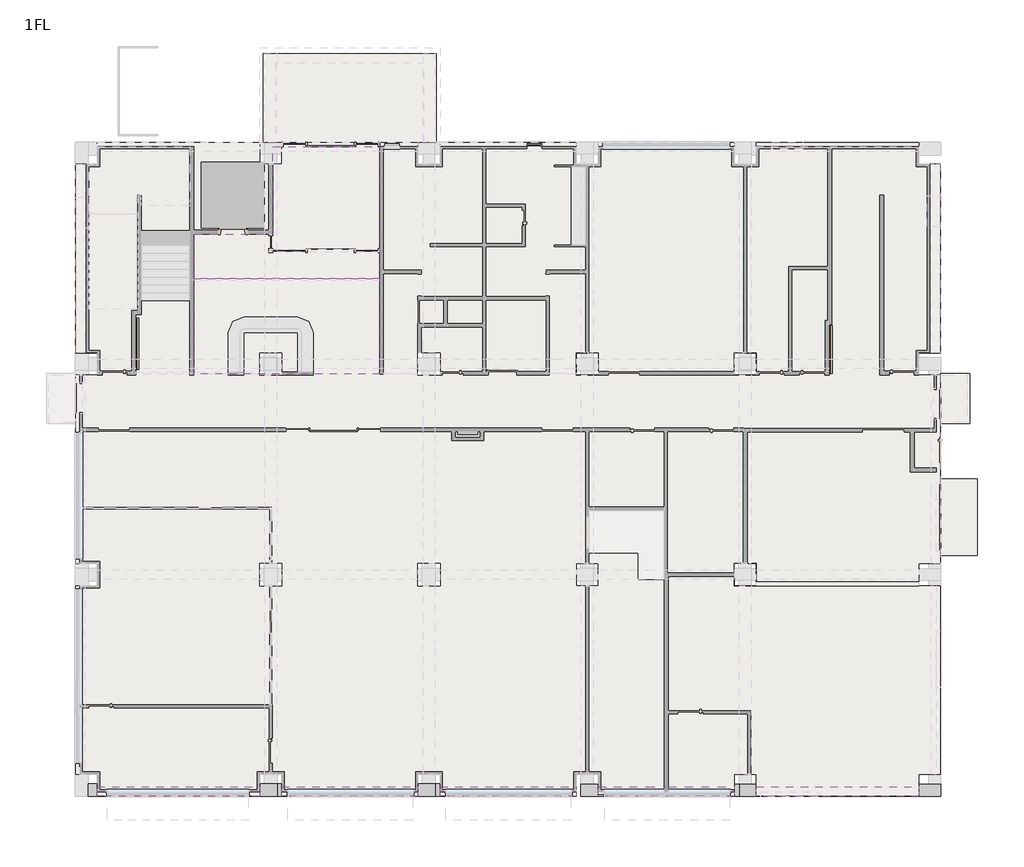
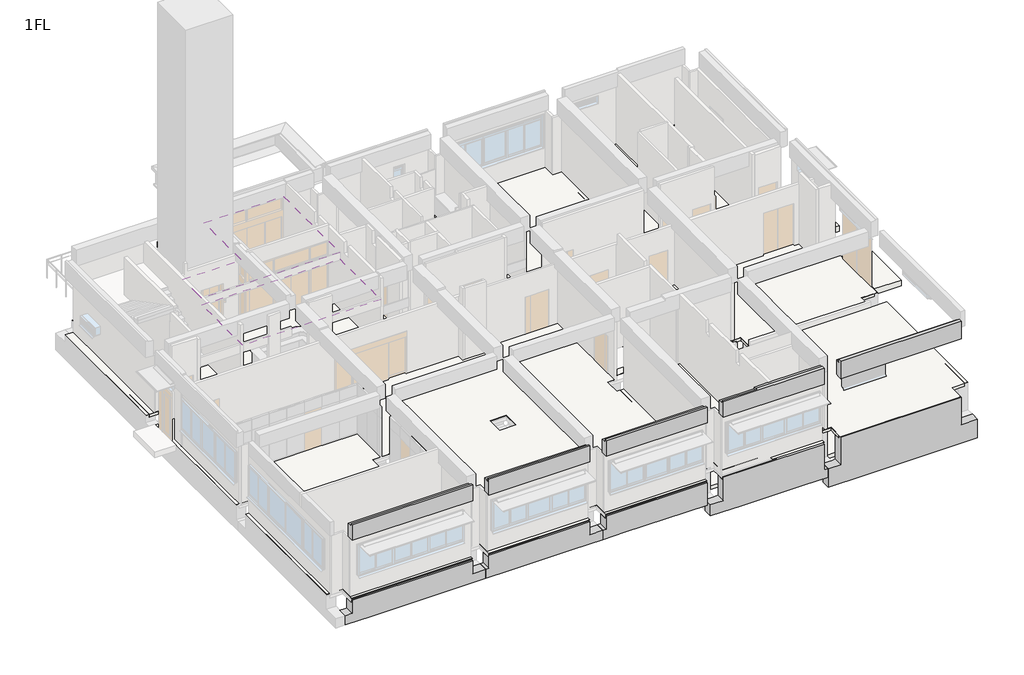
# One storey, part 4 of 7: 10 beams, 9 slabs, 2 coverings.
"""IFC4 building model written with IfcOpenShell, lengths in millimetres."""

import ifcopenshell
import ifcopenshell.guid

model = None  # the IFC model being written
_history = None  # IfcOwnerHistory: only IFC2X3 demands one
_inside = {}  # id of a spatial element -> (the spatial element, [elements in it])
_under = {}  # id of a project, library or spatial element -> (it, [spatial elements below it])
_declared = {}  # id of a project -> (the project, [libraries it declares])
_typed = {}  # id of a type object -> (the type object, [elements of that type])
_made_of = {}  # id of a material, layer set ... -> (it, [elements and type objects made of it])


def new_model(schema):
    """Start an empty IFC model of exactly this schema.

    Asked for "IFC4X3", IfcOpenShell would pick the latest addendum, in which some entities
    have other attributes; the version numbers below select the first issue.
    IFC2X3 requires an IfcOwnerHistory on every rooted entity: one is made here for all.
    """
    global model, _history
    if schema == "IFC4X3":
        model = ifcopenshell.file(schema_version=(4, 3, 0, 0))
    else:
        model = ifcopenshell.file(schema=schema)
    _inside.clear()
    _under.clear()
    _declared.clear()
    _typed.clear()
    _made_of.clear()
    _history = None
    if model.schema == "IFC2X3":
        org = make("IfcOrganization", Name="unknown")
        user = make(
            "IfcPersonAndOrganization",
            ThePerson=make("IfcPerson", FamilyName="unknown"),
            TheOrganization=org,
        )
        app = make(
            "IfcApplication",
            ApplicationDeveloper=org,
            Version="unknown",
            ApplicationFullName="unknown",
            ApplicationIdentifier="unknown",
        )
        _history = make(
            "IfcOwnerHistory",
            OwningUser=user,
            OwningApplication=app,
            ChangeAction="ADDED",
            CreationDate=0,
        )
    return model


def make(cls, **values):
    """One entity of the class cls with the attributes given. An attribute that is None is left unset."""
    return model.create_entity(
        cls, **{name: value for name, value in values.items() if value is not None}
    )


def rooted(cls, **values):
    """An entity with a GlobalId (a new one), such as an element, a storey or a relation."""
    return make(cls, GlobalId=ifcopenshell.guid.new(), OwnerHistory=_history, **values)


def si_unit(unit_type, name, prefix=None):
    """IfcSIUnit, for example si_unit("LENGTHUNIT", "METRE", prefix="MILLI")."""
    return make("IfcSIUnit", UnitType=unit_type, Prefix=prefix, Name=name)


def assignment(units):
    """IfcUnitAssignment: the units of a project."""
    return None if units is None else make("IfcUnitAssignment", Units=units)


def point(xyz):
    """IfcCartesianPoint."""
    return None if xyz is None else make("IfcCartesianPoint", Coordinates=xyz)


def direction(xyz):
    """IfcDirection."""
    return None if xyz is None else make("IfcDirection", DirectionRatios=xyz)


def frame(location, z_axis=None, x_axis=None):
    """IfcAxis2Placement3D, a coordinate frame: its origin and axes. An axis left out is left unset."""
    return make(
        "IfcAxis2Placement3D",
        Location=point(location),
        Axis=direction(z_axis),
        RefDirection=direction(x_axis),
    )


def origin():
    """The frame at (0, 0, 0) with its axes left unset."""
    return frame((0.0, 0.0, 0.0))


def place(relative_to, where):
    """IfcLocalPlacement: puts the frame where relative to a parent placement (None: the world)."""
    return make(
        "IfcLocalPlacement", PlacementRelTo=relative_to, RelativePlacement=where
    )


def context(
    kind, dimensions, precision=None, world=None, true_north=None, identifier=None
):
    """IfcGeometricRepresentationContext, for example the 3D "Model" context."""
    return make(
        "IfcGeometricRepresentationContext",
        ContextIdentifier=identifier,
        ContextType=kind,
        CoordinateSpaceDimension=dimensions,
        Precision=precision,
        WorldCoordinateSystem=world,
        TrueNorth=true_north,
    )


def project(units=None, contexts=None):
    """IfcProject with its units and contexts."""
    return rooted(
        "IfcProject",
        Name="project",
        RepresentationContexts=contexts,
        UnitsInContext=assignment(units),
    )


def spatial(cls, under=None, at=None, **own):
    """A site, building, storey or space (cls), placed at a placement, below another one or the project."""
    s = rooted(cls, ObjectPlacement=at, **own)
    if under is not None:
        _under.setdefault(under.id(), (under, []))[1].append(s)
    return s


def polyline(points):
    """IfcPolyline through the points."""
    return make("IfcPolyline", Points=[point(p) for p in points])


def outline(outer, holes=None, kind="AREA"):
    """IfcArbitraryClosedProfileDef: a profile drawn as a closed curve; with holes, ...WithVoids."""
    if holes is None:
        return make("IfcArbitraryClosedProfileDef", ProfileType=kind, OuterCurve=outer)
    return make(
        "IfcArbitraryProfileDefWithVoids",
        ProfileType=kind,
        OuterCurve=outer,
        InnerCurves=holes,
    )


def extrude(swept, where, along, depth):
    """IfcExtrudedAreaSolid: the profile swept, set in the frame where, extruded along a direction by depth."""
    return make(
        "IfcExtrudedAreaSolid",
        SweptArea=swept,
        Position=where,
        ExtrudedDirection=direction(along),
        Depth=depth,
    )


def faces_of(points, faces, orient=None, outer=None):
    """IfcFace entities. A face is a list of loops; a loop is a list of indices into points, from 0.

    orient and outer hold one flag for each loop. By default every Orientation is true, the
    first loop of a face is its IfcFaceOuterBound and the others are IfcFaceBound.
    """
    made = []
    for i, loops in enumerate(faces):
        bounds = []
        for j, loop in enumerate(loops):
            is_outer = j == 0 if outer is None else outer[i][j]
            bounds.append(
                make(
                    "IfcFaceOuterBound" if is_outer else "IfcFaceBound",
                    Bound=make("IfcPolyLoop", Polygon=[points[k] for k in loop]),
                    Orientation=True if orient is None else orient[i][j],
                )
            )
        made.append(make("IfcFace", Bounds=bounds))
    return made


def faceted_brep(points, faces, orient=None, outer=None, voids=None):
    """IfcFacetedBrep: a solid bounded by flat faces; with voids (closed shells), ...WithVoids."""
    shared = [point(p) for p in points]
    hull = make("IfcClosedShell", CfsFaces=faces_of(shared, faces, orient, outer))
    if voids is None:
        return make("IfcFacetedBrep", Outer=hull)
    return make(
        "IfcFacetedBrepWithVoids",
        Outer=hull,
        Voids=[
            make(cls, CfsFaces=faces_of(shared, fs, o, b)) for cls, fs, o, b in voids
        ],
    )


def shape(context_of_items, identifier, shape_type, items):
    """IfcShapeRepresentation: the items that make up one representation, for example the "Body"."""
    return make(
        "IfcShapeRepresentation",
        ContextOfItems=context_of_items,
        RepresentationIdentifier=identifier,
        RepresentationType=shape_type,
        Items=items,
    )


def made_of(thing, what):
    """Note that an element or type object is made of a material, layer set ...; save() writes the relation."""
    if what is not None:
        _made_of.setdefault(what.id(), (what, []))[1].append(thing)
    return thing


def element(
    cls,
    number,
    at=None,
    inside=None,
    cuts=None,
    type_object=None,
    material=None,
    context=None,
    identifier="Body",
    shape_type=None,
    held_by="IfcProductDefinitionShape",
    body=None,
    shapes=None,
    **own,
):
    """One element of the class cls, such as IfcWall. Its Tag is "e" and its number.

    at: its placement. inside: the storey or other place that contains it. cuts: it is an
    opening in that element (IfcRelVoidsElement). A single representation is given by context,
    identifier, shape_type and body (its items); several are given by shapes. held_by: the class
    of the entity that holds the representations. save() writes the other relations.
    """
    e = rooted(cls, Tag="e%d" % number, ObjectPlacement=at, **own)
    if body is not None:
        shapes = [shape(context, identifier, shape_type, body)]
    if shapes is not None:
        e.Representation = make(held_by, Representations=shapes)
    if inside is not None:
        _inside.setdefault(inside.id(), (inside, []))[1].append(e)
    if cuts is not None:
        rooted(
            "IfcRelVoidsElement", RelatingBuildingElement=cuts, RelatedOpeningElement=e
        )
    if type_object is not None:
        _typed.setdefault(type_object.id(), (type_object, []))[1].append(e)
    return made_of(e, material)


def aggregate(whole, parts):
    """IfcRelAggregates: a whole, such as a stair, and the parts it consists of."""
    return rooted("IfcRelAggregates", RelatingObject=whole, RelatedObjects=parts)


def save(model, path):
    """Write the relations noted so far, then the file.

    IfcRelAggregates (storeys below a building ...), IfcRelContainedInSpatialStructure (elements
    in a storey), IfcRelDefinesByType, IfcRelAssociatesMaterial and IfcRelDeclares: one each for
    every whole, place, type object, material and project.
    """
    for whole, parts in _under.values():
        aggregate(whole, parts)
    for where, things in _inside.values():
        rooted(
            "IfcRelContainedInSpatialStructure",
            RelatedElements=things,
            RelatingStructure=where,
        )
    for kind, things in _typed.values():
        rooted("IfcRelDefinesByType", RelatedObjects=things, RelatingType=kind)
    for what, things in _made_of.values():
        rooted("IfcRelAssociatesMaterial", RelatedObjects=things, RelatingMaterial=what)
    for by, libraries in _declared.values():
        rooted("IfcRelDeclares", RelatingContext=by, RelatedDefinitions=libraries)
    model.write(path)


model = new_model("IFC4")

# Units and contexts
model_context = context("Model", 3, world=origin())
ifc_project = project(units=[si_unit("LENGTHUNIT", "METRE", prefix="MILLI")], contexts=[model_context])

# Site, building, storey
site = spatial("IfcSite", under=ifc_project)
building = spatial("IfcBuilding", under=site)
storey = spatial("IfcBuildingStorey", under=building, Name="1FL", Elevation=0.0)

# Beams
placement = place(None, origin())
element("IfcBeam", 1, ObjectType="営_RC梁 : 2-RG1 350*850", at=placement, inside=storey, context=model_context, shape_type="Brep", body=[
    faceted_brep([(6580.0, -420.0, 4000.0), (6580.0, -420.0, 3150.0), (6580.0, -250.0, 3150.0), (6580.0, -50.0, 3150.0), (6580.0, -50.0, 3850.0), (6580.0, -325.0, 3850.0), (6580.0, -325.0, 4000.0), (420.0, -50.0, 3150.0), (420.0, -250.0, 3150.0), (420.0, -420.0, 3150.0), (420.0, -420.0, 4000.0), (420.0, -325.0, 4000.0), (420.0, -325.0, 3850.0), (420.0, -50.0, 3850.0)], [[[0, 1, 2, 3, 4, 5, 6]], [[7, 8, 9, 10, 11, 12, 13]], [[1, 0, 10, 9]], [[3, 2, 1, 9, 8, 7]], [[3, 7, 13, 4]], [[10, 0, 6, 11]], [[12, 5, 4, 13]], [[5, 12, 11, 6]]]),
])
element("IfcBeam", 2, ObjectType="営_RC梁 : 2-RG1 350*850", at=placement, inside=storey, context=model_context, shape_type="Brep", body=[
    faceted_brep([(12580.0, -420.0, 4000.0), (12580.0, -420.0, 3150.0), (12580.0, -250.0, 3150.0), (12580.0, -50.0, 3150.0), (12580.0, -50.0, 3850.0), (12580.0, -325.0, 3850.0), (12580.0, -325.0, 4000.0), (7420.0, -50.0, 3150.0), (7420.0, -250.0, 3150.0), (7420.0, -420.0, 3150.0), (7420.0, -420.0, 4000.0), (7420.0, -325.0, 4000.0), (7420.0, -325.0, 3850.0), (7420.0, -50.0, 3850.0)], [[[0, 1, 2, 3, 4, 5, 6]], [[7, 8, 9, 10, 11, 12, 13]], [[1, 0, 10, 9]], [[3, 2, 1, 9, 8, 7]], [[3, 7, 13, 4]], [[10, 0, 6, 11]], [[12, 5, 4, 13]], [[5, 12, 11, 6]]]),
])
element("IfcBeam", 3, ObjectType="営_RC梁 : 2-RG1 350*850", at=placement, inside=storey, context=model_context, shape_type="Brep", body=[
    faceted_brep([(18580.0, -420.0, 4000.0), (18580.0, -420.0, 3150.0), (18580.0, -250.0, 3150.0), (18580.0, -50.0, 3150.0), (18580.0, -50.0, 3850.0), (18580.0, -325.0, 3850.0), (18580.0, -325.0, 4000.0), (13420.0, -50.0, 3150.0), (13420.0, -250.0, 3150.0), (13420.0, -420.0, 3150.0), (13420.0, -420.0, 4000.0), (13420.0, -325.0, 4000.0), (13420.0, -325.0, 3850.0), (13420.0, -50.0, 3850.0)], [[[0, 1, 2, 3, 4, 5, 6]], [[7, 8, 9, 10, 11, 12, 13]], [[1, 0, 10, 9]], [[3, 2, 1, 9, 8, 7]], [[3, 7, 13, 4]], [[10, 0, 6, 11]], [[12, 5, 4, 13]], [[5, 12, 11, 6]]]),
])
element("IfcBeam", 4, ObjectType="営_RC梁 : 2-RG1 350*850", at=placement, inside=storey, context=model_context, shape_type="Brep", body=[
    faceted_brep([(24580.0, -420.0, 4000.0), (24580.0, -420.0, 3150.0), (24580.0, -250.0, 3150.0), (24580.0, -50.0, 3150.0), (24580.0, -50.0, 3940.0), (24580.0, -250.0, 3940.0), (24580.0, -250.0, 4000.0), (19420.0, -50.0, 3150.0), (19420.0, -250.0, 3150.0), (19420.0, -420.0, 3150.0), (19420.0, -420.0, 4000.0), (19420.0, -325.0, 4000.0), (19420.0, -325.0, 3850.0), (19420.0, -50.0, 3850.0), (21925.0, -50.0, 3150.0), (22075.0, -50.0, 3150.0), (21200.0, -50.0, 3850.0), (21200.0, -50.0, 3940.0), (21925.0, -50.0, 3940.0), (22075.0, -50.0, 3940.0), (21200.0, -250.0, 4000.0), (21200.0, -325.0, 4000.0), (21200.0, -325.0, 3850.0), (21200.0, -250.0, 3940.0)], [[[0, 1, 2, 3, 4, 5, 6]], [[7, 8, 9, 10, 11, 12, 13]], [[1, 0, 10, 9]], [[3, 2, 1, 9, 8, 7, 14, 15]], [[3, 15, 14, 7, 13, 16, 17, 18, 19, 4]], [[10, 0, 6, 20, 21, 11]], [[22, 16, 13, 12]], [[21, 22, 12, 11]], [[22, 21, 20, 23, 17, 16]], [[23, 5, 4, 19, 18, 17]], [[5, 23, 20, 6]]]),
])
element("IfcBeam", 5, ObjectType="営_RC梁 : 2-RG1 350*850", at=placement, inside=storey, context=model_context, shape_type="Brep", body=[
    faceted_brep([(31580.0, -420.0, 4090.0), (31580.0, -420.0, 4000.0), (31580.0, -420.0, 3150.0), (31580.0, -250.0, 3150.0), (31580.0, -50.0, 3150.0), (31580.0, -50.0, 3940.0), (31580.0, -250.0, 3940.0), (31580.0, -250.0, 4090.0), (25420.0, -50.0, 3150.0), (25420.0, -250.0, 3150.0), (25420.0, -420.0, 3150.0), (25420.0, -420.0, 4000.0), (25420.0, -420.0, 4090.0), (25420.0, -250.0, 4090.0), (25420.0, -250.0, 3940.0), (25420.0, -50.0, 3940.0)], [[[0, 1, 2, 3, 4, 5, 6, 7]], [[8, 9, 10, 11, 12, 13, 14, 15]], [[2, 1, 0, 12, 11, 10]], [[4, 3, 2, 10, 9, 8]], [[4, 8, 15, 5]], [[12, 0, 7, 13]], [[14, 6, 5, 15]], [[6, 14, 13, 7]]]),
])
element("IfcBeam", 6, ObjectType="営_RC梁 : FG1 450*1200", at=placement, inside=storey, context=model_context, shape_type="Brep", body=[
    faceted_brep([(7245.0, -420.0, -800.0), (6580.0, -420.0, -800.0), (6580.0, -420.0, -100.0), (420.0, -420.0, -100.0), (420.0, -420.0, -800.0), (70.0, -420.0, -800.0), (70.0, -420.0, -1300.0), (1350.0, -420.0, -1300.0), (5650.0, -420.0, -1300.0), (7245.0, -420.0, -1300.0), (7245.0, 70.0, -1300.0), (70.0, 70.0, -1300.0), (1350.0, 70.0, -1300.0), (5650.0, 70.0, -1300.0), (6755.0, 70.0, -1300.0), (6580.0, 70.0, -800.0), (6600.0, 70.0, -800.0), (6755.0, 70.0, -800.0), (7245.0, 70.0, -800.0), (70.0, 70.0, -800.0), (400.0, 70.0, -800.0), (420.0, 70.0, -800.0), (420.0, 70.0, -250.0), (6580.0, 70.0, -250.0), (6580.0, -335.0, -100.0), (420.0, -335.0, -100.0), (6580.0, -335.0, -250.0), (420.0, -335.0, -250.0)], [[[0, 1, 2, 3, 4, 5, 6, 7, 8, 9]], [[10, 9, 8, 7, 6, 11, 12, 13, 14]], [[15, 16, 17, 18, 10, 14, 13, 12, 11, 19, 20, 21, 22, 23]], [[3, 2, 24, 25]], [[15, 1, 0, 18, 17, 16]], [[1, 15, 23, 26, 24, 2]], [[4, 21, 20, 19, 5]], [[21, 4, 3, 25, 27, 22]], [[9, 10, 18, 0]], [[6, 5, 19, 11]], [[27, 26, 23, 22]], [[26, 27, 25, 24]]]),
])
element("IfcBeam", 7, ObjectType="営_RC梁 : FG1 450*1200", at=placement, inside=storey, context=model_context, shape_type="Brep", body=[
    faceted_brep([(7420.0, -420.0, -100.0), (7420.0, -420.0, -800.0), (7245.0, -420.0, -800.0), (7245.0, -420.0, -1300.0), (8350.0, -420.0, -1300.0), (11650.0, -420.0, -1300.0), (13245.0, -420.0, -1300.0), (13245.0, -420.0, -800.0), (12580.0, -420.0, -800.0), (12580.0, -420.0, -100.0), (13245.0, 70.0, -1300.0), (7245.0, 70.0, -1300.0), (8350.0, 70.0, -1300.0), (11650.0, 70.0, -1300.0), (12755.0, 70.0, -1300.0), (12580.0, 70.0, -800.0), (12600.0, 70.0, -800.0), (12755.0, 70.0, -800.0), (13245.0, 70.0, -800.0), (7245.0, 70.0, -800.0), (7400.0, 70.0, -800.0), (7420.0, 70.0, -800.0), (7420.0, 70.0, -250.0), (12580.0, 70.0, -250.0), (12580.0, -335.0, -100.0), (7420.0, -335.0, -100.0), (7420.0, -335.0, -250.0), (12580.0, -335.0, -250.0)], [[[0, 1, 2, 3, 4, 5, 6, 7, 8, 9]], [[10, 6, 5, 4, 3, 11, 12, 13, 14]], [[15, 16, 17, 18, 10, 14, 13, 12, 11, 19, 20, 21, 22, 23]], [[0, 9, 24, 25]], [[1, 21, 20, 19, 2]], [[21, 1, 0, 25, 26, 22]], [[15, 8, 7, 18, 17, 16]], [[8, 15, 23, 27, 24, 9]], [[6, 10, 18, 7]], [[3, 2, 19, 11]], [[26, 27, 23, 22]], [[27, 26, 25, 24]]]),
])
element("IfcBeam", 8, ObjectType="営_RC梁 : FG1 450*1200", at=placement, inside=storey, context=model_context, shape_type="Brep", body=[
    faceted_brep([(13420.0, -420.0, -100.0), (13420.0, -420.0, -800.0), (13245.0, -420.0, -800.0), (13245.0, -420.0, -1300.0), (14350.0, -420.0, -1300.0), (18580.0, -420.0, -1300.0), (18580.0, -420.0, -100.0), (18580.0, 70.0, -1300.0), (13245.0, 70.0, -1300.0), (14350.0, 70.0, -1300.0), (13245.0, 70.0, -800.0), (13400.0, 70.0, -800.0), (13420.0, 70.0, -800.0), (13420.0, 70.0, -250.0), (18580.0, 70.0, -250.0), (18580.0, -335.0, -100.0), (13420.0, -335.0, -100.0), (13420.0, -335.0, -250.0), (18580.0, -335.0, -250.0)], [[[0, 1, 2, 3, 4, 5, 6]], [[7, 5, 4, 3, 8, 9]], [[10, 11, 12, 13, 14, 7, 9, 8]], [[0, 6, 15, 16]], [[1, 12, 11, 10, 2]], [[12, 1, 0, 16, 17, 13]], [[6, 5, 7, 14, 18, 15]], [[3, 2, 10, 8]], [[17, 18, 14, 13]], [[18, 17, 16, 15]]]),
])
element("IfcBeam", 9, ObjectType="営_RC梁 : FG3 450*1850", at=placement, inside=storey, context=model_context, shape_type="Brep", body=[
    faceted_brep([(19420.0, -420.0, -1350.0), (18755.0, -420.0, -1350.0), (18755.0, -420.0, -1354.2105263), (18755.0, -420.0, -1950.0), (20350.0, -420.0, -1950.0), (23500.0, -420.0, -1950.0), (24775.0, -420.0, -1950.0), (24775.0, -420.0, -1500.0), (24580.0, -420.0, -1500.0), (24580.0, -420.0, -100.0), (19420.0, -420.0, -100.0), (18755.0, 50.0, -1950.0), (19225.0, 50.0, -1950.0), (20350.0, 50.0, -1950.0), (23500.0, 50.0, -1950.0), (24775.0, 50.0, -1950.0), (18755.0, 50.0, -1350.0), (19225.0, 50.0, -1350.0), (19400.0, 50.0, -1350.0), (19420.0, 50.0, -1350.0), (19420.0, 50.0, -250.0), (22175.0, 50.0, -250.0), (22175.0, 50.0, -160.0), (24580.0, 50.0, -160.0), (24580.0, 50.0, -1500.0), (24600.0, 50.0, -1500.0), (24775.0, 50.0, -1500.0), (24580.0, -250.0, -100.0), (22175.0, -250.0, -100.0), (22175.0, -335.0, -100.0), (19420.0, -335.0, -100.0), (18755.0, -400.0, -1350.0), (19420.0, -335.0, -250.0), (24580.0, -250.0, -160.0), (22175.0, -250.0, -160.0), (22175.0, -335.0, -250.0)], [[[0, 1, 2, 3, 4, 5, 6, 7, 8, 9, 10]], [[3, 11, 12, 13, 14, 15, 6, 5, 4]], [[16, 17, 18, 19, 20, 21, 22, 23, 24, 25, 26, 15, 14, 13, 12, 11]], [[10, 9, 27, 28, 29, 30]], [[11, 3, 2, 1, 31, 16]], [[0, 19, 18, 17, 16, 31, 1]], [[19, 0, 10, 30, 32, 20]], [[26, 7, 6, 15]], [[24, 8, 7, 26, 25]], [[8, 24, 23, 33, 27, 9]], [[33, 23, 22, 34]], [[27, 33, 34, 28]], [[32, 35, 21, 20]], [[35, 29, 28, 34, 22, 21]], [[29, 35, 32, 30]]]),
])
element("IfcBeam", 10, ObjectType="営_RC梁 : FG4 450*2400", at=placement, inside=storey, context=model_context, shape_type="Brep", body=[
    faceted_brep([(24775.0, -420.0, -2500.0), (26500.0, -420.0, -2500.0), (30500.0, -420.0, -2500.0), (32420.0, -420.0, -2500.0), (32420.0, -420.0, -1505.4545455), (32420.0, -420.0, -1500.0), (31580.0, -420.0, -1500.0), (31580.0, -420.0, -10.0), (25420.0, -420.0, -10.0), (25420.0, -420.0, -1500.0), (24775.0, -420.0, -1500.0), (24775.0, -420.0, -1950.0), (24775.0, 50.0, -2500.0), (25225.0, 50.0, -2500.0), (26500.0, 50.0, -2500.0), (30500.0, 50.0, -2500.0), (31950.0, 50.0, -2500.0), (32420.0, 50.0, -2500.0), (24775.0, 50.0, -1950.0), (24775.0, 50.0, -1500.0), (25225.0, 50.0, -1500.0), (25400.0, 50.0, -1500.0), (25420.0, 50.0, -1500.0), (25420.0, 50.0, -160.0), (31580.0, 50.0, -160.0), (31580.0, 50.0, -1500.0), (31600.0, 50.0, -1500.0), (31950.0, 50.0, -1500.0), (32420.0, 50.0, -1500.0), (31580.0, -250.0, -10.0), (25420.0, -250.0, -10.0), (25420.0, -250.0, -160.0), (31580.0, -250.0, -160.0)], [[[0, 1, 2, 3, 4, 5, 6, 7, 8, 9, 10, 11]], [[0, 12, 13, 14, 15, 16, 17, 3, 2, 1]], [[17, 16, 15, 14, 13, 12, 18, 19, 20, 21, 22, 23, 24, 25, 26, 27, 28]], [[8, 7, 29, 30]], [[22, 9, 8, 30, 31, 23]], [[6, 25, 24, 32, 29, 7]], [[12, 0, 11, 10, 19, 18]], [[3, 17, 28, 5, 4]], [[9, 22, 21, 20, 19, 10]], [[25, 6, 5, 28, 27, 26]], [[31, 32, 24, 23]], [[32, 31, 30, 29]]]),
])

# Coverings
element("IfcCovering", 11, ObjectType="S2_天井", at=placement, inside=storey, context=model_context, shape_type="SweptSolid", body=[
    extrude(outline(polyline([(11140.0, 15615.0), (4075.0, 15615.0), (4075.0, 19240.0), (11140.0, 19240.0), (11140.0, 15615.0)])), frame((0.0, 0.0, 2700.0), z_axis=(0.0, 0.0, 1.0), x_axis=(1.0, 0.0, 0.0)), (0.0, 0.0, 1.0), 100.0),
])
element("IfcCovering", 12, ObjectType="S2_天井", at=placement, inside=storey, context=model_context, shape_type="SweptSolid", body=[
    extrude(outline(polyline([(11140.0, 19240.0), (4075.0, 19240.0), (4075.0, 20925.0), (7075.0, 20925.0), (7075.0, 24250.0), (11140.0, 24250.0), (11140.0, 19240.0)])), frame((0.0, 0.0, 3050.0), z_axis=(0.0, 0.0, 1.0), x_axis=(1.0, 0.0, 0.0)), (0.0, 0.0, 1.0), 100.0),
])

# Slabs
element("IfcSlab", 13, ObjectType="(外床)エントランス 300", at=placement, inside=storey, context=model_context, shape_type="SweptSolid", body=[
    extrude(outline(polyline([(13270.0, 27775.0), (13270.0, 24420.0), (6715.3987464, 24420.0), (6715.3987464, 27775.0), (13270.0, 27775.0)])), frame((0.0, 0.0, -300.0), z_axis=(0.0, 0.0, 1.0), x_axis=(1.0, 0.0, 0.0)), (0.0, 0.0, 1.0), 300.0),
])
element("IfcSlab", 14, ObjectType="(内床)仕上げ", at=placement, inside=storey, context=model_context, shape_type="SweptSolid", body=[
    extrude(outline(polyline([(20925.0, 8800.0), (20925.0, 7800.0), (21925.0, 7800.0), (21925.0, -250.0), (19420.0, -250.0), (19420.0, 420.0), (19060.0, 420.0), (19060.0, 7580.0), (19420.0, 7580.0), (19420.0, 8420.0), (19060.0, 8420.0), (19060.0, 8800.0), (20925.0, 8800.0)])), frame((0.0, 0.0, 190.0), z_axis=(0.0, 0.0, 1.0), x_axis=(1.0, 0.0, 0.0)), (0.0, 0.0, 1.0), 10.0),
])
element("IfcSlab", 15, ObjectType="(内床)仕上げ", at=placement, inside=storey, context=model_context, shape_type="Brep", body=[
    faceted_brep([(21925.0, -400.0, -10.0), (21925.0, 10440.0, -10.0), (19060.0, 10440.0, -10.0), (19060.0, 8420.0, -10.0), (18580.0, 8420.0, -10.0), (18580.0, 7580.0, -10.0), (18755.0, 7580.0, -10.0), (19060.0, 7580.0, -10.0), (19060.0, 420.0, -10.0), (18755.0, 420.0, -10.0), (18580.0, 420.0, -10.0), (18580.0, -400.0, -10.0), (13420.0, -400.0, -10.0), (13420.0, 420.0, -10.0), (12580.0, 420.0, -10.0), (12580.0, -400.0, -10.0), (7420.0, -400.0, -10.0), (7420.0, 420.0, -10.0), (6580.0, 420.0, -10.0), (6580.0, -400.0, -10.0), (420.0, -400.0, -10.0), (420.0, 420.0, -10.0), (-400.0, 420.0, -10.0), (-400.0, 7580.0, -10.0), (420.0, 7580.0, -10.0), (420.0, 8420.0, -10.0), (-400.0, 8420.0, -10.0), (-400.0, 15580.0, -10.0), (420.0, 15580.0, -10.0), (420.0, 16420.0, -10.0), (-400.0, 16420.0, -10.0), (-400.0, 23580.0, -10.0), (420.0, 23580.0, -10.0), (420.0, 24400.0, -10.0), (6580.0, 24400.0, -10.0), (6580.0, 23580.0, -10.0), (7420.0, 23580.0, -10.0), (7420.0, 24400.0, -10.0), (12580.0, 24400.0, -10.0), (12580.0, 23580.0, -10.0), (13420.0, 23580.0, -10.0), (13420.0, 24400.0, -10.0), (18580.0, 24400.0, -10.0), (18580.0, 23580.0, -10.0), (19420.0, 23580.0, -10.0), (19420.0, 24400.0, -10.0), (24580.0, 24400.0, -10.0), (24580.0, 23580.0, -10.0), (25420.0, 23580.0, -10.0), (25420.0, 24400.0, -10.0), (31580.0, 24400.0, -10.0), (31580.0, 23580.0, -10.0), (32400.0, 23580.0, -10.0), (32400.0, 16420.0, -10.0), (31580.0, 16420.0, -10.0), (31580.0, 15580.0, -10.0), (32400.0, 15580.0, -10.0), (32400.0, 8420.0, -10.0), (31580.0, 8420.0, -10.0), (31580.0, 7580.0, -10.0), (32400.0, 7580.0, -10.0), (32400.0, 420.0, -10.0), (31580.0, 420.0, -10.0), (31580.0, -400.0, -10.0), (25420.0, -400.0, -10.0), (25420.0, 420.0, -10.0), (24580.0, 420.0, -10.0), (24580.0, -400.0, -10.0), (7420.0, 7580.0, -10.0), (7420.0, 8420.0, -10.0), (6580.0, 8420.0, -10.0), (6580.0, 7580.0, -10.0), (13420.0, 7580.0, -10.0), (13420.0, 8420.0, -10.0), (12580.0, 8420.0, -10.0), (12580.0, 7580.0, -10.0), (25420.0, 7580.0, -10.0), (25420.0, 8420.0, -10.0), (24580.0, 8420.0, -10.0), (24580.0, 7580.0, -10.0), (7420.0, 15580.0, -10.0), (7420.0, 16420.0, -10.0), (6580.0, 16420.0, -10.0), (6580.0, 15580.0, -10.0), (13420.0, 15580.0, -10.0), (13420.0, 16420.0, -10.0), (12580.0, 16420.0, -10.0), (12580.0, 15580.0, -10.0), (19420.0, 15580.0, -10.0), (19420.0, 16420.0, -10.0), (18580.0, 16420.0, -10.0), (18580.0, 15580.0, -10.0), (25420.0, 15580.0, -10.0), (25420.0, 16420.0, -10.0), (24580.0, 16420.0, -10.0), (24580.0, 15580.0, -10.0), (21925.0, 10440.0, 0.0), (21925.0, -400.0, 0.0), (24580.0, -400.0, 0.0), (24580.0, 420.0, 0.0), (25420.0, 420.0, 0.0), (25420.0, -400.0, 0.0), (31580.0, -400.0, 0.0), (31580.0, 420.0, 0.0), (32400.0, 420.0, 0.0), (32400.0, 7580.0, 0.0), (31580.0, 7580.0, 0.0), (31580.0, 8420.0, 0.0), (32400.0, 8420.0, 0.0), (32400.0, 15580.0, 0.0), (31580.0, 15580.0, 0.0), (31580.0, 16420.0, 0.0), (32400.0, 16420.0, 0.0), (32400.0, 23580.0, 0.0), (31580.0, 23580.0, 0.0), (31580.0, 24400.0, 0.0), (25420.0, 24400.0, 0.0), (25420.0, 23580.0, 0.0), (24580.0, 23580.0, 0.0), (24580.0, 24400.0, 0.0), (19420.0, 24400.0, 0.0), (19420.0, 23580.0, 0.0), (18580.0, 23580.0, 0.0), (18580.0, 24400.0, 0.0), (13420.0, 24400.0, 0.0), (13420.0, 23580.0, 0.0), (12580.0, 23580.0, 0.0), (12580.0, 24400.0, 0.0), (7420.0, 24400.0, 0.0), (7420.0, 23580.0, 0.0), (6580.0, 23580.0, 0.0), (6580.0, 24400.0, 0.0), (420.0, 24400.0, 0.0), (420.0, 23580.0, 0.0), (-400.0, 23580.0, 0.0), (-400.0, 16420.0, 0.0), (420.0, 16420.0, 0.0), (420.0, 15580.0, 0.0), (-400.0, 15580.0, 0.0), (-400.0, 8420.0, 0.0), (420.0, 8420.0, 0.0), (420.0, 7580.0, 0.0), (-400.0, 7580.0, 0.0), (-400.0, 420.0, 0.0), (420.0, 420.0, 0.0), (420.0, -400.0, 0.0), (6580.0, -400.0, 0.0), (6580.0, 420.0, 0.0), (7420.0, 420.0, 0.0), (7420.0, -400.0, 0.0), (12580.0, -400.0, 0.0), (12580.0, 420.0, 0.0), (13420.0, 420.0, 0.0), (13420.0, -400.0, 0.0), (18580.0, -400.0, 0.0), (18580.0, 420.0, 0.0), (19060.0, 420.0, 0.0), (19060.0, 7580.0, 0.0), (18580.0, 7580.0, 0.0), (18580.0, 8420.0, 0.0), (19060.0, 8420.0, 0.0), (19060.0, 10440.0, 0.0), (7420.0, 8420.0, 0.0), (7420.0, 7580.0, 0.0), (6580.0, 7580.0, 0.0), (6580.0, 8420.0, 0.0), (13420.0, 8420.0, 0.0), (13420.0, 7580.0, 0.0), (12580.0, 7580.0, 0.0), (12580.0, 8420.0, 0.0), (25420.0, 8420.0, 0.0), (25420.0, 7580.0, 0.0), (24580.0, 7580.0, 0.0), (24580.0, 8420.0, 0.0), (7420.0, 16420.0, 0.0), (7420.0, 15580.0, 0.0), (6580.0, 15580.0, 0.0), (6580.0, 16420.0, 0.0), (13420.0, 16420.0, 0.0), (13420.0, 15580.0, 0.0), (12580.0, 15580.0, 0.0), (12580.0, 16420.0, 0.0), (19420.0, 16420.0, 0.0), (19420.0, 15580.0, 0.0), (18580.0, 15580.0, 0.0), (18580.0, 16420.0, 0.0), (25420.0, 16420.0, 0.0), (25420.0, 15580.0, 0.0), (24580.0, 15580.0, 0.0), (24580.0, 16420.0, 0.0)], [[[0, 1, 2, 3, 4, 5, 6, 7, 8, 9, 10, 11, 12, 13, 14, 15, 16, 17, 18, 19, 20, 21, 22, 23, 24, 25, 26, 27, 28, 29, 30, 31, 32, 33, 34, 35, 36, 37, 38, 39, 40, 41, 42, 43, 44, 45, 46, 47, 48, 49, 50, 51, 52, 53, 54, 55, 56, 57, 58, 59, 60, 61, 62, 63, 64, 65, 66, 67], [68, 69, 70, 71], [72, 73, 74, 75], [76, 77, 78, 79], [80, 81, 82, 83], [84, 85, 86, 87], [88, 89, 90, 91], [92, 93, 94, 95]], [[96, 97, 98, 99, 100, 101, 102, 103, 104, 105, 106, 107, 108, 109, 110, 111, 112, 113, 114, 115, 116, 117, 118, 119, 120, 121, 122, 123, 124, 125, 126, 127, 128, 129, 130, 131, 132, 133, 134, 135, 136, 137, 138, 139, 140, 141, 142, 143, 144, 145, 146, 147, 148, 149, 150, 151, 152, 153, 154, 155, 156, 157, 158, 159, 160, 161], [162, 163, 164, 165], [166, 167, 168, 169], [170, 171, 172, 173], [174, 175, 176, 177], [178, 179, 180, 181], [182, 183, 184, 185], [186, 187, 188, 189]], [[104, 61, 60, 105]], [[108, 57, 56, 109]], [[112, 53, 52, 113]], [[97, 0, 67, 98]], [[101, 64, 63, 102]], [[22, 143, 142, 23]], [[26, 139, 138, 27]], [[30, 135, 134, 31]], [[37, 128, 127, 38]], [[131, 34, 33, 132]], [[41, 124, 123, 42]], [[45, 120, 119, 46]], [[49, 116, 115, 50]], [[1, 0, 97, 96]], [[2, 1, 96, 161]], [[2, 161, 160, 3]], [[156, 8, 7, 157]], [[149, 16, 15, 150]], [[19, 146, 145, 20]], [[153, 12, 11, 154]], [[148, 17, 16, 149]], [[18, 147, 146, 19]], [[147, 18, 17, 148]], [[152, 13, 12, 153]], [[14, 151, 150, 15]], [[151, 14, 13, 152]], [[10, 155, 154, 11]], [[155, 10, 9, 8, 156]], [[100, 65, 64, 101]], [[66, 99, 98, 67]], [[99, 66, 65, 100]], [[62, 103, 102, 63]], [[103, 62, 61, 104]], [[144, 21, 20, 145]], [[21, 144, 143, 22]], [[68, 163, 162, 69]], [[163, 68, 71, 164]], [[164, 71, 70, 165]], [[165, 70, 69, 162]], [[72, 167, 166, 73]], [[167, 72, 75, 168]], [[168, 75, 74, 169]], [[169, 74, 73, 166]], [[5, 158, 157, 7, 6]], [[158, 5, 4, 159]], [[159, 4, 3, 160]], [[76, 171, 170, 77]], [[171, 76, 79, 172]], [[172, 79, 78, 173]], [[173, 78, 77, 170]], [[59, 106, 105, 60]], [[106, 59, 58, 107]], [[107, 58, 57, 108]], [[24, 141, 140, 25]], [[141, 24, 23, 142]], [[25, 140, 139, 26]], [[80, 175, 174, 81]], [[175, 80, 83, 176]], [[176, 83, 82, 177]], [[177, 82, 81, 174]], [[84, 179, 178, 85]], [[179, 84, 87, 180]], [[180, 87, 86, 181]], [[181, 86, 85, 178]], [[88, 183, 182, 89]], [[183, 88, 91, 184]], [[184, 91, 90, 185]], [[185, 90, 89, 182]], [[92, 187, 186, 93]], [[187, 92, 95, 188]], [[188, 95, 94, 189]], [[189, 94, 93, 186]], [[55, 110, 109, 56]], [[110, 55, 54, 111]], [[111, 54, 53, 112]], [[28, 137, 136, 29]], [[137, 28, 27, 138]], [[29, 136, 135, 30]], [[36, 129, 128, 37]], [[129, 36, 35, 130]], [[130, 35, 34, 131]], [[40, 125, 124, 41]], [[125, 40, 39, 126]], [[126, 39, 38, 127]], [[44, 121, 120, 45]], [[121, 44, 43, 122]], [[122, 43, 42, 123]], [[48, 117, 116, 49]], [[117, 48, 47, 118]], [[118, 47, 46, 119]], [[51, 114, 113, 52]], [[114, 51, 50, 115]], [[32, 133, 132, 33]], [[133, 32, 31, 134]]]),
])
element("IfcSlab", 16, ObjectType="(外床)エントランス 300", at=placement, inside=storey, context=model_context, shape_type="SweptSolid", body=[
    extrude(outline(polyline([(32420.0, 15630.0), (33505.0, 15630.0), (33505.0, 13730.0), (32420.0, 13730.0), (32420.0, 15630.0)])), frame((0.0, 0.0, -300.0), z_axis=(0.0, 0.0, 1.0), x_axis=(1.0, 0.0, 0.0)), (0.0, 0.0, 1.0), 300.0),
])
element("IfcSlab", 17, ObjectType="(外床)エントランス 300", at=placement, inside=storey, context=model_context, shape_type="SweptSolid", body=[
    extrude(outline(polyline([(32420.0, 11630.0), (33805.0, 11630.0), (33805.0, 8730.0), (32420.0, 8730.0), (32420.0, 11630.0)])), frame((0.0, 0.0, -300.0), z_axis=(0.0, 0.0, 1.0), x_axis=(1.0, 0.0, 0.0)), (0.0, 0.0, 1.0), 300.0),
])
element("IfcSlab", 18, ObjectType="(RC)150", at=placement, inside=storey, context=model_context, shape_type="Brep", body=[
    faceted_brep([(4075.0, 24250.0, -160.0), (4075.0, 23930.0, -160.0), (4075.0, 21075.0, -160.0), (4124.0, 21075.0, -160.0), (4514.0, 21075.0, -160.0), (6755.0, 21075.0, -160.0), (6925.0, 21075.0, -160.0), (6925.0, 23580.0, -160.0), (7225.0, 23580.0, -160.0), (7420.0, 23580.0, -160.0), (7420.0, 23950.0, -160.0), (7420.0, 24250.0, -160.0), (12580.0, 24250.0, -160.0), (12580.0, 23950.0, -160.0), (12580.0, 23580.0, -160.0), (12775.0, 23580.0, -160.0), (13225.0, 23580.0, -160.0), (13420.0, 23580.0, -160.0), (13420.0, 23950.0, -160.0), (13420.0, 24250.0, -160.0), (18580.0, 24250.0, -160.0), (18580.0, 23950.0, -160.0), (18580.0, 23580.0, -160.0), (18775.0, 23580.0, -160.0), (19000.0, 23580.0, -160.0), (19000.0, 16420.0, -160.0), (18775.0, 16420.0, -160.0), (18580.0, 16420.0, -160.0), (18580.0, 16225.0, -160.0), (18580.0, 15755.0, -160.0), (18580.0, 15580.0, -160.0), (18755.0, 15580.0, -160.0), (19245.0, 15580.0, -160.0), (19420.0, 15580.0, -160.0), (19420.0, 15640.0, -160.0), (24580.0, 15640.0, -160.0), (24580.0, 15580.0, -160.0), (24755.0, 15580.0, -160.0), (25225.0, 15580.0, -160.0), (25420.0, 15580.0, -160.0), (25420.0, 15775.0, -160.0), (25420.0, 16245.0, -160.0), (25420.0, 16420.0, -160.0), (25225.0, 16420.0, -160.0), (25000.0, 16420.0, -160.0), (25000.0, 23580.0, -160.0), (25225.0, 23580.0, -160.0), (25420.0, 23580.0, -160.0), (25420.0, 23930.0, -160.0), (25420.0, 24250.0, -160.0), (31580.0, 24250.0, -160.0), (31580.0, 23930.0, -160.0), (31580.0, 23580.0, -160.0), (31930.0, 23580.0, -160.0), (32250.0, 23580.0, -160.0), (32250.0, 16420.0, -160.0), (31930.0, 16420.0, -160.0), (31580.0, 16420.0, -160.0), (31580.0, 16245.0, -160.0), (31580.0, 15775.0, -160.0), (31580.0, 15580.0, -160.0), (31950.0, 15580.0, -160.0), (32250.0, 15580.0, -160.0), (32250.0, 13555.0, -160.0), (32250.0, 8420.0, -160.0), (31950.0, 8420.0, -160.0), (31580.0, 8420.0, -160.0), (31580.0, 8225.0, -160.0), (31580.0, 7775.0, -160.0), (31580.0, 7580.0, -160.0), (31950.0, 7580.0, -160.0), (32250.0, 7580.0, -160.0), (32250.0, 420.0, -160.0), (31950.0, 420.0, -160.0), (31580.0, 420.0, -160.0), (31580.0, 50.0, -160.0), (31580.0, -250.0, -160.0), (25420.0, -250.0, -160.0), (25420.0, 50.0, -160.0), (25420.0, 420.0, -160.0), (25225.0, 420.0, -160.0), (24775.0, 420.0, -160.0), (24580.0, 420.0, -160.0), (24580.0, 50.0, -160.0), (24580.0, -250.0, -160.0), (22175.0, -250.0, -160.0), (22175.0, 50.0, -160.0), (22175.0, 2485.0, -160.0), (22175.0, 2835.0, -160.0), (22175.0, 5158.0, -160.0), (22175.0, 5508.0, -160.0), (22175.0, 7775.0, -160.0), (22175.0, 7825.0, -160.0), (24580.0, 7825.0, -160.0), (24580.0, 7775.0, -160.0), (24580.0, 7580.0, -160.0), (24775.0, 7580.0, -160.0), (25225.0, 7580.0, -160.0), (25420.0, 7580.0, -160.0), (25420.0, 7775.0, -160.0), (25420.0, 8225.0, -160.0), (25420.0, 8420.0, -160.0), (25225.0, 8420.0, -160.0), (25175.0, 8420.0, -160.0), (25175.0, 13500.0, -160.0), (24755.0, 13500.0, -160.0), (19245.0, 13500.0, -160.0), (19000.0, 13500.0, -160.0), (18755.0, 13500.0, -160.0), (13245.0, 13500.0, -160.0), (12755.0, 13500.0, -160.0), (7245.0, 13500.0, -160.0), (6755.0, 13500.0, -160.0), (70.0, 13500.0, -160.0), (-250.0, 13500.0, -160.0), (-250.0, 15580.0, -160.0), (70.0, 15580.0, -160.0), (420.0, 15580.0, -160.0), (420.0, 15755.0, -160.0), (420.0, 16245.0, -160.0), (420.0, 16420.0, -160.0), (70.0, 16420.0, -160.0), (-250.0, 16420.0, -160.0), (-250.0, 23580.0, -160.0), (70.0, 23580.0, -160.0), (420.0, 23580.0, -160.0), (420.0, 23930.0, -160.0), (420.0, 24250.0, -160.0), (7420.0, 15580.0, -160.0), (7420.0, 15755.0, -160.0), (7420.0, 16225.0, -160.0), (7420.0, 16420.0, -160.0), (7225.0, 16420.0, -160.0), (6755.0, 16420.0, -160.0), (6580.0, 16420.0, -160.0), (6580.0, 16245.0, -160.0), (6580.0, 15755.0, -160.0), (6580.0, 15580.0, -160.0), (6755.0, 15580.0, -160.0), (7245.0, 15580.0, -160.0), (13420.0, 15580.0, -160.0), (13420.0, 15755.0, -160.0), (13420.0, 16225.0, -160.0), (13420.0, 16420.0, -160.0), (13225.0, 16420.0, -160.0), (12775.0, 16420.0, -160.0), (12580.0, 16420.0, -160.0), (12580.0, 16225.0, -160.0), (12580.0, 15755.0, -160.0), (12580.0, 15580.0, -160.0), (12755.0, 15580.0, -160.0), (13245.0, 15580.0, -160.0), (4075.0, 21075.0, -10.0), (4075.0, 23930.0, -10.0), (4075.0, 24250.0, -10.0), (420.0, 24250.0, -10.0), (420.0, 23580.0, -10.0), (-250.0, 23580.0, -10.0), (-250.0, 16420.0, -10.0), (420.0, 16420.0, -10.0), (420.0, 15580.0, -10.0), (-250.0, 15580.0, -10.0), (-250.0, 13500.0, -10.0), (24987.3, 13500.0, -10.0), (25000.0, 13500.0, -10.0), (25000.0, 13325.0, -10.0), (25000.0, 10925.0, -10.0), (25000.0, 10575.0, -10.0), (25000.0, 8420.0, -10.0), (25420.0, 8420.0, -10.0), (25420.0, 7730.0, -10.0), (25420.0, 7580.0, -10.0), (24580.0, 7580.0, -10.0), (24580.0, 8000.0, -10.0), (21925.0, 8000.0, -10.0), (21925.0, -250.0, -10.0), (24580.0, -250.0, -10.0), (24580.0, 420.0, -10.0), (25420.0, 420.0, -10.0), (25420.0, -250.0, -10.0), (31580.0, -250.0, -10.0), (31580.0, 420.0, -10.0), (32250.0, 420.0, -10.0), (32250.0, 7580.0, -10.0), (31580.0, 7580.0, -10.0), (31580.0, 7730.0, -10.0), (31580.0, 8420.0, -10.0), (32250.0, 8420.0, -10.0), (32250.0, 13555.0, -10.0), (32250.0, 15580.0, -10.0), (31580.0, 15580.0, -10.0), (31580.0, 16420.0, -10.0), (32250.0, 16420.0, -10.0), (32250.0, 23580.0, -10.0), (31580.0, 23580.0, -10.0), (31580.0, 24250.0, -10.0), (25420.0, 24250.0, -10.0), (25420.0, 23580.0, -10.0), (25000.0, 23580.0, -10.0), (25000.0, 16420.0, -10.0), (25420.0, 16420.0, -10.0), (25420.0, 15580.0, -10.0), (24580.0, 15580.0, -10.0), (24580.0, 15640.0, -10.0), (19420.0, 15640.0, -10.0), (19420.0, 15580.0, -10.0), (18580.0, 15580.0, -10.0), (18580.0, 16420.0, -10.0), (19000.0, 16420.0, -10.0), (19000.0, 23580.0, -10.0), (18580.0, 23580.0, -10.0), (18580.0, 24250.0, -10.0), (13420.0, 24250.0, -10.0), (13420.0, 23580.0, -10.0), (12580.0, 23580.0, -10.0), (12580.0, 24250.0, -10.0), (7420.0, 24250.0, -10.0), (7420.0, 23580.0, -10.0), (6925.0, 23580.0, -10.0), (6925.0, 21075.0, -10.0), (6755.0, 21075.0, -10.0), (4514.0, 21075.0, -10.0), (4124.0, 21075.0, -10.0), (7420.0, 16420.0, -10.0), (7420.0, 15580.0, -10.0), (6580.0, 15580.0, -10.0), (6580.0, 16420.0, -10.0), (13420.0, 16420.0, -10.0), (13420.0, 15580.0, -10.0), (12580.0, 15580.0, -10.0), (12580.0, 16420.0, -10.0), (19000.0, 16420.0, -100.0), (19000.0, 23580.0, -100.0), (19420.0, 15640.0, -100.0), (24580.0, 15640.0, -100.0), (25000.0, 16420.0, -100.0), (25000.0, 23580.0, -100.0), (21925.0, -250.0, -100.0), (22175.0, -250.0, -100.0), (24580.0, -250.0, -100.0), (21925.0, 8000.0, -100.0), (24580.0, 8000.0, -100.0), (25000.0, 13500.0, -100.0), (25000.0, 13325.0, -100.0), (25000.0, 10925.0, -100.0), (25000.0, 10575.0, -100.0), (25000.0, 8420.0, -100.0), (-250.0, 13500.0, -100.0), (25175.0, 13500.0, -100.0), (-250.0, 15580.0, -100.0), (22175.0, 7825.0, -100.0), (24580.0, 7825.0, -100.0), (25175.0, 8420.0, -100.0)], [[[0, 1, 2, 3, 4, 5, 6, 7, 8, 9, 10, 11, 12, 13, 14, 15, 16, 17, 18, 19, 20, 21, 22, 23, 24, 25, 26, 27, 28, 29, 30, 31, 32, 33, 34, 35, 36, 37, 38, 39, 40, 41, 42, 43, 44, 45, 46, 47, 48, 49, 50, 51, 52, 53, 54, 55, 56, 57, 58, 59, 60, 61, 62, 63, 64, 65, 66, 67, 68, 69, 70, 71, 72, 73, 74, 75, 76, 77, 78, 79, 80, 81, 82, 83, 84, 85, 86, 87, 88, 89, 90, 91, 92, 93, 94, 95, 96, 97, 98, 99, 100, 101, 102, 103, 104, 105, 106, 107, 108, 109, 110, 111, 112, 113, 114, 115, 116, 117, 118, 119, 120, 121, 122, 123, 124, 125, 126, 127], [128, 129, 130, 131, 132, 133, 134, 135, 136, 137, 138, 139], [140, 141, 142, 143, 144, 145, 146, 147, 148, 149, 150, 151]], [[152, 153, 154, 155, 156, 157, 158, 159, 160, 161, 162, 163, 164, 165, 166, 167, 168, 169, 170, 171, 172, 173, 174, 175, 176, 177, 178, 179, 180, 181, 182, 183, 184, 185, 186, 187, 188, 189, 190, 191, 192, 193, 194, 195, 196, 197, 198, 199, 200, 201, 202, 203, 204, 205, 206, 207, 208, 209, 210, 211, 212, 213, 214, 215, 216, 217, 218, 219, 220, 221, 222], [223, 224, 225, 226], [227, 228, 229, 230]], [[2, 1, 0, 154, 153, 152]], [[6, 5, 4, 3, 2, 152, 222, 221, 220, 219]], [[6, 219, 218, 7]], [[11, 216, 215, 12]], [[19, 212, 211, 20]], [[208, 231, 25, 24, 232, 209]], [[34, 233, 204, 203, 234, 35]], [[44, 235, 199, 198, 236, 45]], [[49, 196, 195, 50]], [[188, 63, 62, 189]], [[192, 55, 54, 193]], [[63, 188, 187, 64]], [[182, 72, 71, 183]], [[175, 237, 238, 85, 84, 239, 176]], [[179, 77, 76, 180]], [[175, 174, 240, 237]], [[240, 174, 173, 241]], [[164, 242, 243, 244, 245, 246, 168, 167, 166, 165]], [[164, 163, 162, 247, 114, 113, 112, 111, 110, 109, 108, 107, 106, 105, 104, 248, 242]], [[114, 247, 162, 161, 249, 115]], [[122, 158, 157, 123]], [[154, 0, 127, 155]], [[250, 238, 237, 240, 241, 251]], [[242, 248, 252, 246, 245, 244, 243]], [[248, 104, 103, 252]], [[92, 250, 251, 93]], [[250, 92, 91, 90, 89, 88, 87, 86, 85, 238]], [[178, 79, 78, 77, 179]], [[82, 177, 176, 239, 84, 83]], [[177, 82, 81, 80, 79, 178]], [[74, 181, 180, 76, 75]], [[181, 74, 73, 72, 182]], [[98, 171, 170, 169, 101, 100, 99]], [[171, 98, 97, 96, 95, 172]], [[172, 95, 94, 93, 251, 241, 173]], [[101, 169, 168, 246, 252, 103, 102]], [[69, 184, 183, 71, 70]], [[184, 69, 68, 67, 66, 186, 185]], [[186, 66, 65, 64, 187]], [[128, 224, 223, 131, 130, 129]], [[224, 128, 139, 138, 137, 225]], [[225, 137, 136, 135, 134, 226]], [[226, 134, 133, 132, 131, 223]], [[140, 228, 227, 143, 142, 141]], [[228, 140, 151, 150, 149, 229]], [[229, 149, 148, 147, 146, 230]], [[230, 146, 145, 144, 143, 227]], [[33, 205, 204, 233, 34]], [[205, 33, 32, 31, 30, 206]], [[206, 30, 29, 28, 27, 207]], [[207, 27, 26, 25, 231, 208]], [[39, 201, 200, 42, 41, 40]], [[201, 39, 38, 37, 36, 202]], [[202, 36, 35, 234, 203]], [[42, 200, 199, 235, 44, 43]], [[60, 190, 189, 62, 61]], [[190, 60, 59, 58, 57, 191]], [[191, 57, 56, 55, 192]], [[117, 160, 159, 120, 119, 118]], [[160, 117, 116, 115, 249, 161]], [[120, 159, 158, 122, 121]], [[9, 217, 216, 11, 10]], [[217, 9, 8, 7, 218]], [[17, 213, 212, 19, 18]], [[213, 17, 16, 15, 14, 214]], [[214, 14, 13, 12, 215]], [[22, 210, 209, 232, 24, 23]], [[210, 22, 21, 20, 211]], [[47, 197, 196, 49, 48]], [[197, 47, 46, 45, 236, 198]], [[52, 194, 193, 54, 53]], [[194, 52, 51, 50, 195]], [[125, 156, 155, 127, 126]], [[156, 125, 124, 123, 157]]]),
])
element("IfcSlab", 19, ObjectType="(RC)200", at=placement, inside=storey, context=model_context, shape_type="Brep", body=[
    faceted_brep([(7225.0, 17650.0, -1950.0), (7225.0, 22500.0, -1950.0), (8500.0, 22500.0, -1950.0), (8500.0, 23950.0, -1950.0), (11650.0, 23950.0, -1950.0), (11650.0, 22650.0, -1950.0), (12775.0, 22650.0, -1950.0), (12775.0, 17650.0, -1950.0), (11350.0, 17650.0, -1950.0), (11350.0, 16225.0, -1950.0), (8650.0, 16225.0, -1950.0), (8650.0, 17650.0, -1950.0), (7225.0, 17650.0, -1750.0), (8650.0, 17650.0, -1750.0), (8650.0, 16225.0, -1750.0), (11350.0, 16225.0, -1750.0), (11350.0, 17650.0, -1750.0), (12775.0, 17650.0, -1750.0), (12775.0, 22650.0, -1750.0), (11650.0, 22650.0, -1750.0), (11650.0, 23950.0, -1750.0), (8500.0, 23950.0, -1750.0), (8500.0, 22500.0, -1750.0), (7225.0, 22500.0, -1750.0)], [[[0, 1, 2, 3, 4, 5, 6, 7, 8, 9, 10, 11]], [[12, 13, 14, 15, 16, 17, 18, 19, 20, 21, 22, 23]], [[1, 0, 12, 23]], [[2, 1, 23, 22]], [[3, 2, 22, 21]], [[4, 3, 21, 20]], [[5, 4, 20, 19]], [[6, 5, 19, 18]], [[7, 6, 18, 17]], [[8, 7, 17, 16]], [[9, 8, 16, 15]], [[10, 9, 15, 14]], [[11, 10, 14, 13]], [[0, 11, 13, 12]]]),
    faceted_brep([(14650.0, 17650.0, -1950.0), (13225.0, 17650.0, -1950.0), (13225.0, 22650.0, -1950.0), (14350.0, 22650.0, -1950.0), (14350.0, 23950.0, -1950.0), (17650.0, 23950.0, -1950.0), (17650.0, 22650.0, -1950.0), (18775.0, 22650.0, -1950.0), (18775.0, 17650.0, -1950.0), (17350.0, 17650.0, -1950.0), (17350.0, 16225.0, -1950.0), (14650.0, 16225.0, -1950.0), (14650.0, 17650.0, -1750.0), (14650.0, 16225.0, -1750.0), (17350.0, 16225.0, -1750.0), (17350.0, 17650.0, -1750.0), (18775.0, 17650.0, -1750.0), (18775.0, 22650.0, -1750.0), (17650.0, 22650.0, -1750.0), (17650.0, 23950.0, -1750.0), (14350.0, 23950.0, -1750.0), (14350.0, 22650.0, -1750.0), (13225.0, 22650.0, -1750.0), (13225.0, 17650.0, -1750.0)], [[[0, 1, 2, 3, 4, 5, 6, 7, 8, 9, 10, 11]], [[12, 13, 14, 15, 16, 17, 18, 19, 20, 21, 22, 23]], [[1, 0, 12, 23]], [[2, 1, 23, 22]], [[3, 2, 22, 21]], [[4, 3, 21, 20]], [[5, 4, 20, 19]], [[6, 5, 19, 18]], [[7, 6, 18, 17]], [[8, 7, 17, 16]], [[9, 8, 16, 15]], [[10, 9, 15, 14]], [[11, 10, 14, 13]], [[0, 11, 13, 12]]]),
    faceted_brep([(20650.0, 16225.0, -1950.0), (20650.0, 17650.0, -1950.0), (19225.0, 17650.0, -1950.0), (19225.0, 22650.0, -1950.0), (20350.0, 22650.0, -1950.0), (20350.0, 23950.0, -1950.0), (23650.0, 23950.0, -1950.0), (23650.0, 22650.0, -1950.0), (24775.0, 22650.0, -1950.0), (24775.0, 17650.0, -1950.0), (23350.0, 17650.0, -1950.0), (23350.0, 16225.0, -1950.0), (20650.0, 16225.0, -1750.0), (23350.0, 16225.0, -1750.0), (23350.0, 17650.0, -1750.0), (24775.0, 17650.0, -1750.0), (24775.0, 22650.0, -1750.0), (23650.0, 22650.0, -1750.0), (23650.0, 23950.0, -1750.0), (20350.0, 23950.0, -1750.0), (20350.0, 22650.0, -1750.0), (19225.0, 22650.0, -1750.0), (19225.0, 17650.0, -1750.0), (20650.0, 17650.0, -1750.0), (24775.0, 17650.0, -1800.0), (23350.0, 17650.0, -1800.0), (23350.0, 16225.0, -1800.0)], [[[0, 1, 2, 3, 4, 5, 6, 7, 8, 9, 10, 11]], [[12, 13, 14, 15, 16, 17, 18, 19, 20, 21, 22, 23]], [[1, 0, 12, 23]], [[2, 1, 23, 22]], [[3, 2, 22, 21]], [[4, 3, 21, 20]], [[5, 4, 20, 19]], [[6, 5, 19, 18]], [[7, 6, 18, 17]], [[8, 7, 17, 16]], [[9, 8, 16, 15, 24]], [[10, 9, 24, 15, 14, 25]], [[11, 10, 25, 14, 13, 26]], [[0, 11, 26, 13, 12]]]),
    faceted_brep([(20350.0, 1350.0, -1950.0), (19225.0, 1350.0, -1950.0), (19225.0, 6350.0, -1950.0), (20650.0, 6350.0, -1950.0), (20650.0, 7775.0, -1950.0), (23350.0, 7775.0, -1950.0), (23350.0, 6350.0, -1950.0), (24775.0, 6350.0, -1950.0), (24775.0, 1500.0, -1950.0), (23500.0, 1500.0, -1950.0), (23500.0, 50.0, -1950.0), (20350.0, 50.0, -1950.0), (20350.0, 1350.0, -1750.0), (20350.0, 50.0, -1750.0), (23500.0, 50.0, -1750.0), (23500.0, 1500.0, -1750.0), (24775.0, 1500.0, -1750.0), (24775.0, 6350.0, -1750.0), (23350.0, 6350.0, -1750.0), (23350.0, 7775.0, -1750.0), (20650.0, 7775.0, -1750.0), (20650.0, 6350.0, -1750.0), (19225.0, 6350.0, -1750.0), (19225.0, 1350.0, -1750.0)], [[[0, 1, 2, 3, 4, 5, 6, 7, 8, 9, 10, 11]], [[12, 13, 14, 15, 16, 17, 18, 19, 20, 21, 22, 23]], [[1, 0, 12, 23]], [[2, 1, 23, 22]], [[3, 2, 22, 21]], [[4, 3, 21, 20]], [[5, 4, 20, 19]], [[6, 5, 19, 18]], [[7, 6, 18, 17]], [[8, 7, 17, 16]], [[9, 8, 16, 15]], [[10, 9, 15, 14]], [[11, 10, 14, 13]], [[0, 11, 13, 12]]]),
    faceted_brep([(26350.0, 22650.0, -1950.0), (26350.0, 23930.0, -1950.0), (28025.0, 23930.0, -1950.0), (28025.0, 16245.0, -1950.0), (26650.0, 16245.0, -1950.0), (26640.0, 16245.0, -1950.0), (26640.0, 17650.0, -1950.0), (25225.0, 17650.0, -1950.0), (25225.0, 22650.0, -1950.0), (26350.0, 22650.0, -1750.0), (25225.0, 22650.0, -1750.0), (25225.0, 17650.0, -1750.0), (26640.0, 17650.0, -1750.0), (26640.0, 16245.0, -1750.0), (28025.0, 16245.0, -1750.0), (28025.0, 23930.0, -1750.0), (26350.0, 23930.0, -1750.0), (26640.0, 16245.0, -1797.6), (26640.0, 17650.0, -1800.0), (25225.0, 17650.0, -1800.0)], [[[0, 1, 2, 3, 4, 5, 6, 7, 8]], [[9, 10, 11, 12, 13, 14, 15, 16]], [[1, 0, 9, 16]], [[2, 1, 16, 15]], [[3, 2, 15, 14]], [[5, 4, 3, 14, 13, 17]], [[6, 5, 17, 13, 12, 18]], [[7, 6, 18, 12, 11, 19]], [[8, 7, 19, 11, 10]], [[0, 8, 10, 9]]]),
])
element("IfcSlab", 20, ObjectType="(RC)200", at=placement, inside=storey, context=model_context, shape_type="Brep", body=[
    faceted_brep([(6580.0, 23930.0, -1450.0), (6580.0, 23580.0, -1450.0), (6755.0, 23580.0, -1450.0), (6755.0, 21125.0, -1450.0), (4514.0, 21125.0, -1450.0), (4514.0, 23930.0, -1450.0), (6580.0, 23930.0, -1250.0), (4514.0, 23930.0, -1250.0), (4514.0, 21125.0, -1250.0), (6755.0, 21125.0, -1250.0), (6755.0, 23580.0, -1250.0), (6580.0, 23580.0, -1250.0), (4514.0, 23930.0, -1300.0)], [[[0, 1, 2, 3, 4, 5]], [[6, 7, 8, 9, 10, 11]], [[1, 0, 6, 11]], [[2, 1, 11, 10]], [[3, 2, 10, 9]], [[4, 3, 9, 8]], [[5, 4, 8, 7, 12]], [[0, 5, 12, 7, 6]]]),
])
element("IfcSlab", 21, ObjectType="(RC)200", at=placement, inside=storey, context=model_context, shape_type="Brep", body=[
    faceted_brep([(26650.0, 14350.0, -2500.0), (26650.0, 15775.0, -2500.0), (30650.0, 15775.0, -2500.0), (30650.0, 14650.0, -2500.0), (31950.0, 14650.0, -2500.0), (31950.0, 9500.0, -2500.0), (30500.0, 9500.0, -2500.0), (30500.0, 8225.0, -2500.0), (30500.0, 7775.0, -2500.0), (30500.0, 6500.0, -2500.0), (31950.0, 6500.0, -2500.0), (31950.0, 1500.0, -2500.0), (30500.0, 1500.0, -2500.0), (30500.0, 50.0, -2500.0), (26500.0, 50.0, -2500.0), (26500.0, 1500.0, -2500.0), (25225.0, 1500.0, -2500.0), (25225.0, 6350.0, -2500.0), (26650.0, 6350.0, -2500.0), (26650.0, 7775.0, -2500.0), (26650.0, 8225.0, -2500.0), (26650.0, 9650.0, -2500.0), (25225.0, 9650.0, -2500.0), (25225.0, 14350.0, -2500.0), (26650.0, 14350.0, -2300.0), (25225.0, 14350.0, -2300.0), (25225.0, 9650.0, -2300.0), (26650.0, 9650.0, -2300.0), (26650.0, 8225.0, -2300.0), (26650.0, 7775.0, -2300.0), (26650.0, 6350.0, -2300.0), (25225.0, 6350.0, -2300.0), (25225.0, 1500.0, -2300.0), (26500.0, 1500.0, -2300.0), (26500.0, 50.0, -2300.0), (30500.0, 50.0, -2300.0), (30500.0, 1500.0, -2300.0), (31950.0, 1500.0, -2300.0), (31950.0, 6500.0, -2300.0), (30500.0, 6500.0, -2300.0), (30500.0, 7775.0, -2300.0), (30500.0, 8225.0, -2300.0), (30500.0, 9500.0, -2300.0), (31950.0, 9500.0, -2300.0), (31950.0, 14650.0, -2300.0), (30650.0, 14650.0, -2300.0), (30650.0, 15775.0, -2300.0), (26650.0, 15775.0, -2300.0)], [[[0, 1, 2, 3, 4, 5, 6, 7, 8, 9, 10, 11, 12, 13, 14, 15, 16, 17, 18, 19, 20, 21, 22, 23]], [[24, 25, 26, 27, 28, 29, 30, 31, 32, 33, 34, 35, 36, 37, 38, 39, 40, 41, 42, 43, 44, 45, 46, 47]], [[1, 0, 24, 47]], [[2, 1, 47, 46]], [[3, 2, 46, 45]], [[4, 3, 45, 44]], [[6, 5, 43, 42]], [[9, 8, 7, 6, 42, 41, 40, 39]], [[21, 20, 19, 18, 30, 29, 28, 27]], [[22, 21, 27, 26]], [[0, 23, 25, 24]], [[23, 22, 26, 25]], [[5, 4, 44, 43]], [[10, 9, 39, 38]], [[11, 10, 38, 37]], [[12, 11, 37, 36]], [[13, 12, 36, 35]], [[14, 13, 35, 34]], [[15, 14, 34, 33]], [[16, 15, 33, 32]], [[17, 16, 32, 31]], [[18, 17, 31, 30]]]),
])

save(model, "model.ifc")
